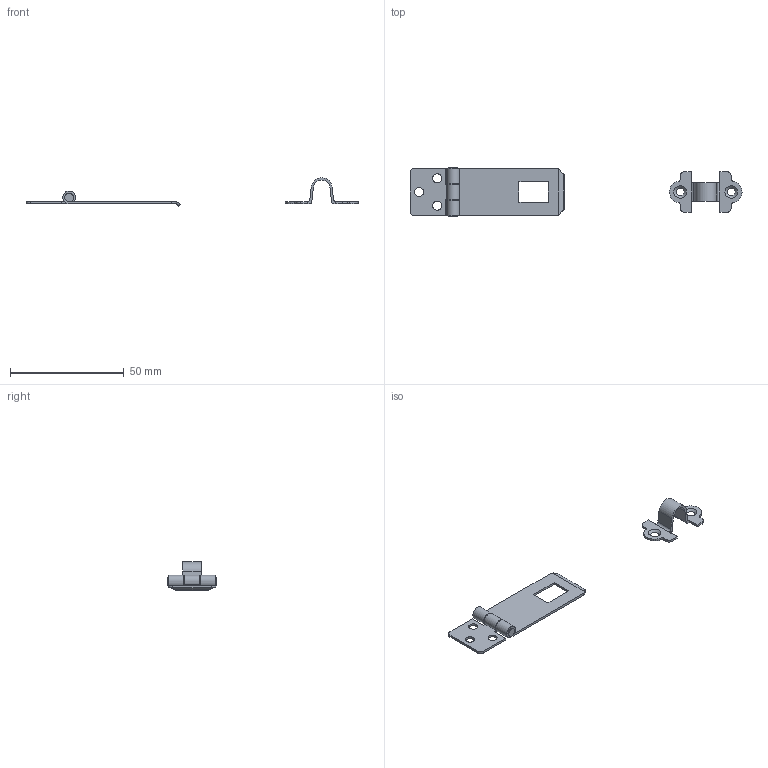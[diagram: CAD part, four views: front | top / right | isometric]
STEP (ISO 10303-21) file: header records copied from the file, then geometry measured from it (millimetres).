
FILE_DESCRIPTION(/* description */ (''),/* implementation_level */ '2;1');
FILE_NAME(/* name */ '\\NAS\db20\GS1-1\DR_GS1-1.stp',/* time_stamp */ '2017-08-31T08:57:51+09:00',/* author */ ('user'),/* organization */ (''),/* preprocessor_version */ 'ST-DEVELOPER v15.6',/* originating_system */ 'Autodesk Inventor 2015',/* authorisation */ '');
FILE_SCHEMA (('AUTOMOTIVE_DESIGN { 1 0 10303 214 3 1 1 }'));
Length unit declared in the file: millimetre
Products named in the file (5): DR_GS1-1-P1; DR_GS1-1-P2; DR_GS1-1-P3; DR_GS1-1-PIN; DR_GS1-1
Bounding box: 146.24 x 22 x 12.52 mm (x, y, z)
Volume: 2111.3 mm3; surface area: 4588.6 mm2
Topology: 4 solids, 4 shells, 90 faces, 243 edges, 163 vertices
Faces by surface type: plane 52, cylinder 34, bspline 2, cone 2
Full cylindrical faces by diameter (mm): 3.6 x1, 3.8 x2, 4 x3
Entity records: 3039 total; most frequent: CARTESIAN_POINT 636, DIRECTION 484, ORIENTED_EDGE 464, EDGE_CURVE 232, AXIS2_PLACEMENT_3D 169, VERTEX_POINT 160, LINE 146, VECTOR 146
